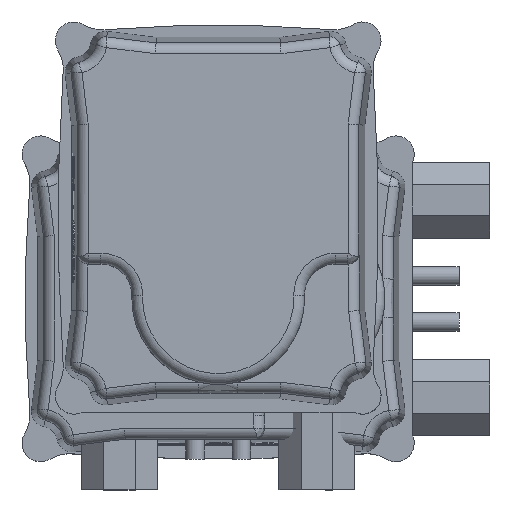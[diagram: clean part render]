
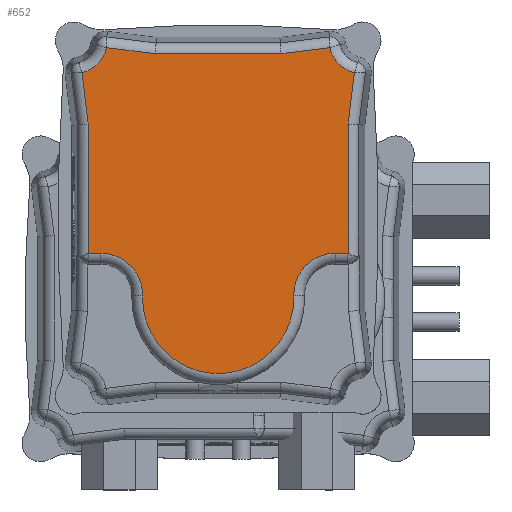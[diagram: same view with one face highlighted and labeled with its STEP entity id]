
A CAD part, top view. The second image highlights one B-rep face of the part: STEP entity #652.
In plain terms, the highlighted planar face has unit normal (0, 0, 1).
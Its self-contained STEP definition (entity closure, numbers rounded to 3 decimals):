
#652 = ADVANCED_FACE( '', ( #1825 ), #1826, .T. );
#1825 = FACE_OUTER_BOUND( '', #3702, .T. );
#1826 = PLANE( '', #3703 );
#3702 = EDGE_LOOP( '', ( #10830, #10831, #10832, #10833, #10834, #10835, #10836, #10837, #10838, #10839, #10840, #10841, #10842, #10843, #10844, #10845 ) );
#3703 = AXIS2_PLACEMENT_3D( '', #10846, #10847, #10848 );
#10830 = ORIENTED_EDGE( '', *, *, #15884, .T. );
#10831 = ORIENTED_EDGE( '', *, *, #15885, .T. );
#10832 = ORIENTED_EDGE( '', *, *, #15886, .T. );
#10833 = ORIENTED_EDGE( '', *, *, #15887, .T. );
#10834 = ORIENTED_EDGE( '', *, *, #15888, .T. );
#10835 = ORIENTED_EDGE( '', *, *, #15889, .T. );
#10836 = ORIENTED_EDGE( '', *, *, #15890, .T. );
#10837 = ORIENTED_EDGE( '', *, *, #15891, .T. );
#10838 = ORIENTED_EDGE( '', *, *, #15892, .T. );
#10839 = ORIENTED_EDGE( '', *, *, #15893, .T. );
#10840 = ORIENTED_EDGE( '', *, *, #15894, .T. );
#10841 = ORIENTED_EDGE( '', *, *, #15895, .T. );
#10842 = ORIENTED_EDGE( '', *, *, #15896, .T. );
#10843 = ORIENTED_EDGE( '', *, *, #15897, .T. );
#10844 = ORIENTED_EDGE( '', *, *, #15898, .T. );
#10845 = ORIENTED_EDGE( '', *, *, #15899, .T. );
#10846 = CARTESIAN_POINT( '', ( 47.227, -44.578, 84. ) );
#10847 = DIRECTION( '', ( 0., 0., 1. ) );
#10848 = DIRECTION( '', ( 1., 0., 0. ) );
#15884 = EDGE_CURVE( '', #17898, #17899, #17900, .T. );
#15885 = EDGE_CURVE( '', #17899, #17901, #17902, .T. );
#15886 = EDGE_CURVE( '', #17901, #17903, #17904, .F. );
#15887 = EDGE_CURVE( '', #17903, #17905, #17906, .T. );
#15888 = EDGE_CURVE( '', #17905, #17907, #17908, .T. );
#15889 = EDGE_CURVE( '', #17907, #17909, #17910, .T. );
#15890 = EDGE_CURVE( '', #17909, #17911, #17912, .T. );
#15891 = EDGE_CURVE( '', #17911, #17913, #17914, .F. );
#15892 = EDGE_CURVE( '', #17913, #17915, #17916, .T. );
#15893 = EDGE_CURVE( '', #17915, #17917, #17918, .F. );
#15894 = EDGE_CURVE( '', #17917, #17919, #17920, .T. );
#15895 = EDGE_CURVE( '', #17919, #17921, #17922, .T. );
#15896 = EDGE_CURVE( '', #17921, #17923, #17924, .T. );
#15897 = EDGE_CURVE( '', #17923, #17925, #17926, .T. );
#15898 = EDGE_CURVE( '', #17925, #17927, #17928, .F. );
#15899 = EDGE_CURVE( '', #17927, #17898, #17929, .T. );
#17898 = VERTEX_POINT( '', #20900 );
#17899 = VERTEX_POINT( '', #20901 );
#17900 = LINE( '', #20902, #20903 );
#17901 = VERTEX_POINT( '', #20904 );
#17902 = LINE( '', #20905, #20906 );
#17903 = VERTEX_POINT( '', #20907 );
#17904 = CIRCLE( '', #20908, 10.907 );
#17905 = VERTEX_POINT( '', #20909 );
#17906 = LINE( '', #20910, #20911 );
#17907 = VERTEX_POINT( '', #20912 );
#17908 = LINE( '', #20913, #20914 );
#17909 = VERTEX_POINT( '', #20915 );
#17910 = CIRCLE( '', #20916, 0.5 );
#17911 = VERTEX_POINT( '', #20917 );
#17912 = LINE( '', #20918, #20919 );
#17913 = VERTEX_POINT( '', #20920 );
#17914 = CIRCLE( '', #20921, 13.5 );
#17915 = VERTEX_POINT( '', #20922 );
#17916 = CIRCLE( '', #20923, 24.5 );
#17917 = VERTEX_POINT( '', #20924 );
#17918 = CIRCLE( '', #20925, 13.5 );
#17919 = VERTEX_POINT( '', #20926 );
#17920 = LINE( '', #20927, #20928 );
#17921 = VERTEX_POINT( '', #20929 );
#17922 = CIRCLE( '', #20930, 0.5 );
#17923 = VERTEX_POINT( '', #20931 );
#17924 = LINE( '', #20932, #20933 );
#17925 = VERTEX_POINT( '', #20934 );
#17926 = LINE( '', #20935, #20936 );
#17927 = VERTEX_POINT( '', #20937 );
#17928 = CIRCLE( '', #20938, 10.907 );
#17929 = LINE( '', #20939, #20940 );
#20900 = CARTESIAN_POINT( '', ( -53.093, 20.331, 84. ) );
#20901 = CARTESIAN_POINT( '', ( -53.093, -20.331, 84. ) );
#20902 = CARTESIAN_POINT( '', ( -53.093, -44.578, 84. ) );
#20903 = VECTOR( '', #28277, 1000. );
#20904 = CARTESIAN_POINT( '', ( -55.033, -36.126, 84. ) );
#20905 = CARTESIAN_POINT( '', ( -54.536, -32.083, 84. ) );
#20906 = VECTOR( '', #28278, 1000. );
#20907 = CARTESIAN_POINT( '', ( -46.913, -44.129, 84. ) );
#20908 = AXIS2_PLACEMENT_3D( '', #28279, #28280, #28281 );
#20909 = CARTESIAN_POINT( '', ( -30.331, -42.093, 84. ) );
#20910 = CARTESIAN_POINT( '', ( 45.775, -32.749, 84. ) );
#20911 = VECTOR( '', #28282, 1000. );
#20912 = CARTESIAN_POINT( '', ( 11.491, -42.093, 84. ) );
#20913 = CARTESIAN_POINT( '', ( 47.227, -42.093, 84. ) );
#20914 = VECTOR( '', #28283, 1000. );
#20915 = CARTESIAN_POINT( '', ( 11.5, -42., 84. ) );
#20916 = AXIS2_PLACEMENT_3D( '', #28284, #28285, #28286 );
#20917 = CARTESIAN_POINT( '', ( 11.5, -37.987, 84. ) );
#20918 = CARTESIAN_POINT( '', ( 11.5, -44.578, 84. ) );
#20919 = VECTOR( '', #28287, 1000. );
#20920 = CARTESIAN_POINT( '', ( 25.355, -24.492, 84. ) );
#20921 = AXIS2_PLACEMENT_3D( '', #28288, #28289, #28290 );
#20922 = CARTESIAN_POINT( '', ( 25.355, 24.492, 84. ) );
#20923 = AXIS2_PLACEMENT_3D( '', #28291, #28292, #28293 );
#20924 = CARTESIAN_POINT( '', ( 11.5, 37.987, 84. ) );
#20925 = AXIS2_PLACEMENT_3D( '', #28294, #28295, #28296 );
#20926 = CARTESIAN_POINT( '', ( 11.5, 42., 84. ) );
#20927 = CARTESIAN_POINT( '', ( 11.5, -44.578, 84. ) );
#20928 = VECTOR( '', #28297, 1000. );
#20929 = CARTESIAN_POINT( '', ( 11.491, 42.093, 84. ) );
#20930 = AXIS2_PLACEMENT_3D( '', #28298, #28299, #28300 );
#20931 = CARTESIAN_POINT( '', ( -30.331, 42.093, 84. ) );
#20932 = CARTESIAN_POINT( '', ( 47.227, 42.093, 84. ) );
#20933 = VECTOR( '', #28301, 1000. );
#20934 = CARTESIAN_POINT( '', ( -46.913, 44.129, 84. ) );
#20935 = CARTESIAN_POINT( '', ( 56.559, 31.425, 84. ) );
#20936 = VECTOR( '', #28302, 1000. );
#20937 = CARTESIAN_POINT( '', ( -55.033, 36.126, 84. ) );
#20938 = AXIS2_PLACEMENT_3D( '', #28303, #28304, #28305 );
#20939 = CARTESIAN_POINT( '', ( -43.752, -55.749, 84. ) );
#20940 = VECTOR( '', #28306, 1000. );
#28277 = DIRECTION( '', ( 0., -1., 0. ) );
#28278 = DIRECTION( '', ( -0.122, -0.993, 0. ) );
#28279 = CARTESIAN_POINT( '', ( -57.5, -46.75, 84. ) );
#28280 = DIRECTION( '', ( 0., 0., 1. ) );
#28281 = DIRECTION( '', ( 1., 0., 0. ) );
#28282 = DIRECTION( '', ( 0.993, 0.122, 0. ) );
#28283 = DIRECTION( '', ( 1., 0., 0. ) );
#28284 = CARTESIAN_POINT( '', ( 11., -42., 84. ) );
#28285 = DIRECTION( '', ( 0., 0., 1. ) );
#28286 = DIRECTION( '', ( 1., 0., 0. ) );
#28287 = DIRECTION( '', ( 0., 1., 0. ) );
#28288 = CARTESIAN_POINT( '', ( 25., -37.987, 84. ) );
#28289 = DIRECTION( '', ( 0., 0., 1. ) );
#28290 = DIRECTION( '', ( 1., 0., 0. ) );
#28291 = CARTESIAN_POINT( '', ( 26., 0., 84. ) );
#28292 = DIRECTION( '', ( 0., 0., 1. ) );
#28293 = DIRECTION( '', ( 1., 0., 0. ) );
#28294 = CARTESIAN_POINT( '', ( 25., 37.987, 84. ) );
#28295 = DIRECTION( '', ( 0., 0., 1. ) );
#28296 = DIRECTION( '', ( 1., 0., 0. ) );
#28297 = DIRECTION( '', ( 0., 1., 0. ) );
#28298 = CARTESIAN_POINT( '', ( 11., 42., 84. ) );
#28299 = DIRECTION( '', ( 0., 0., 1. ) );
#28300 = DIRECTION( '', ( 1., 0., 0. ) );
#28301 = DIRECTION( '', ( -1., 0., 0. ) );
#28302 = DIRECTION( '', ( -0.993, 0.122, 0. ) );
#28303 = CARTESIAN_POINT( '', ( -57.5, 46.75, 84. ) );
#28304 = DIRECTION( '', ( 0., 0., 1. ) );
#28305 = DIRECTION( '', ( 1., 0., 0. ) );
#28306 = DIRECTION( '', ( 0.122, -0.993, 0. ) );
